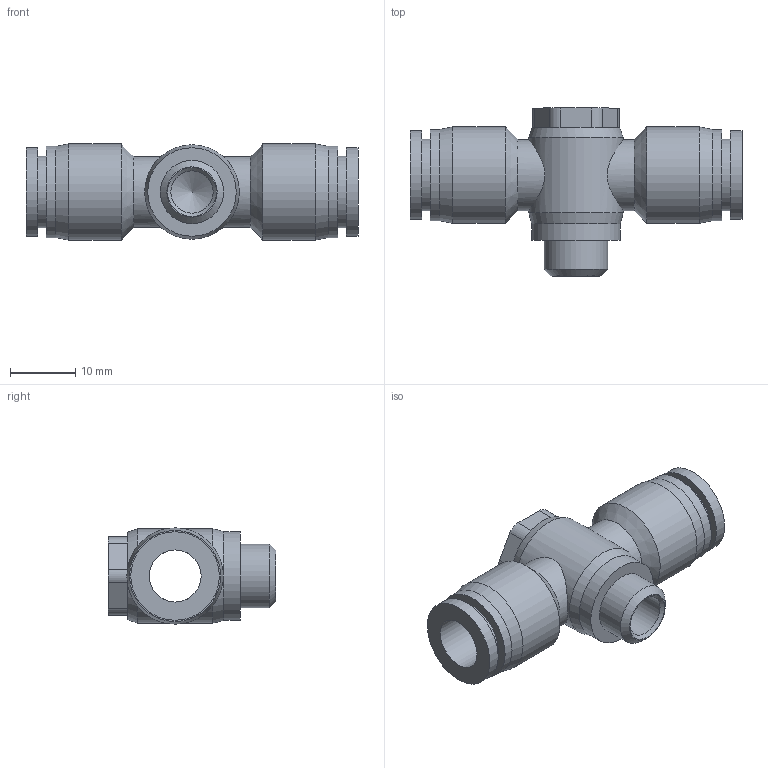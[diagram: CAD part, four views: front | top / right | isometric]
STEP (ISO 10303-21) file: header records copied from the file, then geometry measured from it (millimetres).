
FILE_DESCRIPTION(/* description */ (''),/* implementation_level */ '2;1');
FILE_NAME(/* name */ 'S:\UTecnico\ArchivioUT\Speciali Clienti\Speciali KONFIT\DISEGNI 3D\RP\RP 66\RP661808.stp',/* time_stamp */ '2013-08-01T10:02:42+02:00',/* author */ ('UT5'),/* organization */ (''),/* preprocessor_version */ 'ST-DEVELOPER v15.2',/* originating_system */ 'Autodesk Inventor 2014',/* authorisation */ '');
FILE_SCHEMA (('AUTOMOTIVE_DESIGN { 1 0 10303 214 3 1 1 }'));
Length unit declared in the file: millimetre
Products named in the file (1): RP661808
Bounding box: 51 x 25.8 x 14.8 mm (x, y, z)
Volume: 6106.9 mm3; surface area: 4743.3 mm2
Topology: 1 solids, 1 shells, 47 faces, 107 edges, 68 vertices
Faces by surface type: cylinder 22, plane 16, cone 9
Full cylindrical faces by diameter (mm): 6.5 x2, 8 x1, 9.728 x1, 10.9 x2, 11 x2, 13.6 x3, 14 x2, 14.5 x1, 14.8 x2
Entity records: 1328 total; most frequent: CARTESIAN_POINT 342, DIRECTION 206, ORIENTED_EDGE 142, AXIS2_PLACEMENT_3D 91, EDGE_LOOP 84, EDGE_CURVE 71, VERTEX_POINT 59, ADVANCED_FACE 47
